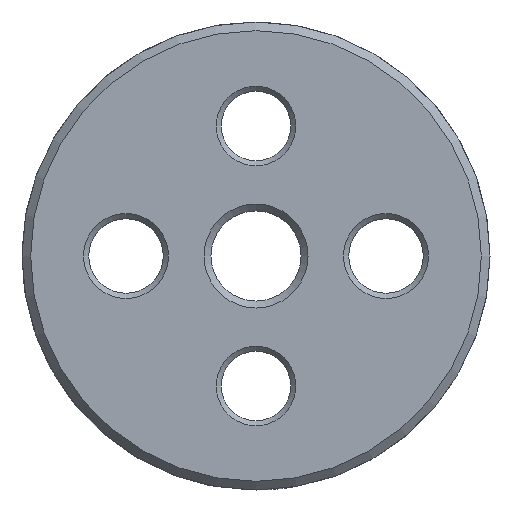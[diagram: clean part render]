
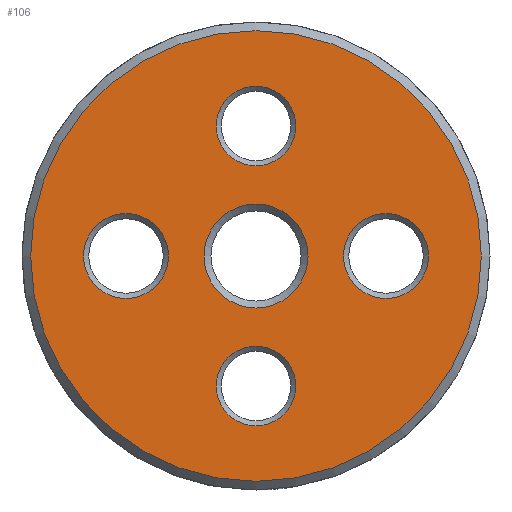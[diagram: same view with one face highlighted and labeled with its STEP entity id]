
A CAD part, front view. The second image highlights one B-rep face of the part: STEP entity #106.
In plain terms, the highlighted planar face has unit normal (0, -1, 0).
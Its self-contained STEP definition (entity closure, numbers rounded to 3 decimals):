
#106 = ADVANCED_FACE( '', ( #196, #197, #198, #199, #200, #201 ), #202, .F. );
#196 = FACE_BOUND( '', #295, .T. );
#197 = FACE_BOUND( '', #296, .T. );
#198 = FACE_BOUND( '', #297, .T. );
#199 = FACE_BOUND( '', #298, .T. );
#200 = FACE_BOUND( '', #299, .T. );
#201 = FACE_OUTER_BOUND( '', #300, .T. );
#202 = PLANE( '', #301 );
#295 = EDGE_LOOP( '', ( #527 ) );
#296 = EDGE_LOOP( '', ( #528 ) );
#297 = EDGE_LOOP( '', ( #529 ) );
#298 = EDGE_LOOP( '', ( #530 ) );
#299 = EDGE_LOOP( '', ( #531 ) );
#300 = EDGE_LOOP( '', ( #532 ) );
#301 = AXIS2_PLACEMENT_3D( '', #533, #534, #535 );
#527 = ORIENTED_EDGE( '', *, *, #633, .F. );
#528 = ORIENTED_EDGE( '', *, *, #626, .F. );
#529 = ORIENTED_EDGE( '', *, *, #613, .F. );
#530 = ORIENTED_EDGE( '', *, *, #616, .F. );
#531 = ORIENTED_EDGE( '', *, *, #619, .F. );
#532 = ORIENTED_EDGE( '', *, *, #601, .T. );
#533 = CARTESIAN_POINT( '', ( 13., 0., 0. ) );
#534 = DIRECTION( '', ( 0., 1., 0. ) );
#535 = DIRECTION( '', ( 0., 0., 1. ) );
#601 = EDGE_CURVE( '', #704, #704, #705, .T. );
#613 = EDGE_CURVE( '', #723, #723, #724, .T. );
#616 = EDGE_CURVE( '', #729, #729, #730, .T. );
#619 = EDGE_CURVE( '', #735, #735, #736, .T. );
#626 = EDGE_CURVE( '', #747, #747, #748, .F. );
#633 = EDGE_CURVE( '', #759, #759, #760, .T. );
#704 = VERTEX_POINT( '', #937 );
#705 = CIRCLE( '', #938, 13. );
#723 = VERTEX_POINT( '', #968 );
#724 = CIRCLE( '', #969, 2.3 );
#729 = VERTEX_POINT( '', #974 );
#730 = CIRCLE( '', #975, 2.3 );
#735 = VERTEX_POINT( '', #980 );
#736 = CIRCLE( '', #981, 2.45 );
#747 = VERTEX_POINT( '', #999 );
#748 = CIRCLE( '', #1000, 2.45 );
#759 = VERTEX_POINT( '', #1018 );
#760 = CIRCLE( '', #1019, 3. );
#937 = CARTESIAN_POINT( '', ( 0., 0., -13. ) );
#938 = AXIS2_PLACEMENT_3D( '', #1096, #1097, #1098 );
#968 = CARTESIAN_POINT( '', ( 0., 0., 5.2 ) );
#969 = AXIS2_PLACEMENT_3D( '', #1120, #1121, #1122 );
#974 = CARTESIAN_POINT( '', ( 0., 0., -9.8 ) );
#975 = AXIS2_PLACEMENT_3D( '', #1129, #1130, #1131 );
#980 = CARTESIAN_POINT( '', ( -7.5, 0., -2.45 ) );
#981 = AXIS2_PLACEMENT_3D( '', #1138, #1139, #1140 );
#999 = CARTESIAN_POINT( '', ( 7.5, 0., 2.45 ) );
#1000 = AXIS2_PLACEMENT_3D( '', #1151, #1152, #1153 );
#1018 = CARTESIAN_POINT( '', ( 0., 0., -3. ) );
#1019 = AXIS2_PLACEMENT_3D( '', #1164, #1165, #1166 );
#1096 = CARTESIAN_POINT( '', ( 0., 0., 0. ) );
#1097 = DIRECTION( '', ( 0., -1., 0. ) );
#1098 = DIRECTION( '', ( 0., 0., -1. ) );
#1120 = CARTESIAN_POINT( '', ( 0., 0., 7.5 ) );
#1121 = DIRECTION( '', ( 0., -1., 0. ) );
#1122 = DIRECTION( '', ( 0., 0., -1. ) );
#1129 = CARTESIAN_POINT( '', ( 0., 0., -7.5 ) );
#1130 = DIRECTION( '', ( 0., -1., 0. ) );
#1131 = DIRECTION( '', ( 0., 0., -1. ) );
#1138 = CARTESIAN_POINT( '', ( -7.5, 0., 0. ) );
#1139 = DIRECTION( '', ( 0., -1., 0. ) );
#1140 = DIRECTION( '', ( 0., 0., -1. ) );
#1151 = CARTESIAN_POINT( '', ( 7.5, 0., 0. ) );
#1152 = DIRECTION( '', ( 0., 1., 0. ) );
#1153 = DIRECTION( '', ( 0., 0., 1. ) );
#1164 = CARTESIAN_POINT( '', ( 0., 0., 0. ) );
#1165 = DIRECTION( '', ( 0., -1., 0. ) );
#1166 = DIRECTION( '', ( 0., 0., -1. ) );
